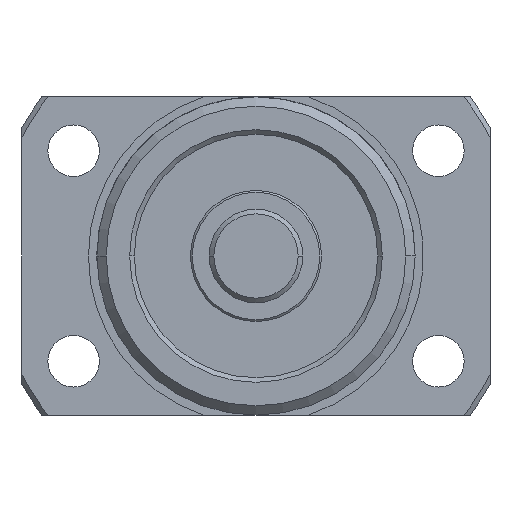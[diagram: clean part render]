
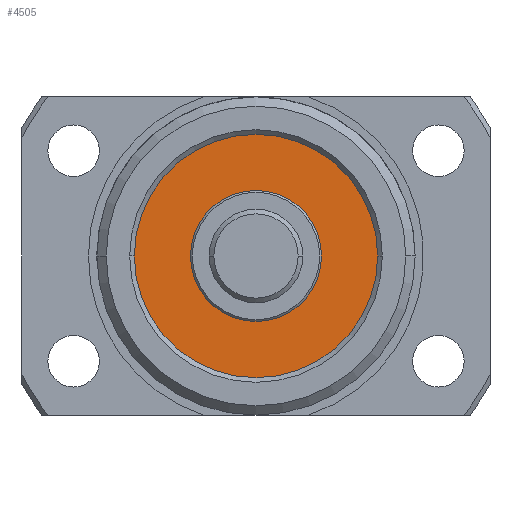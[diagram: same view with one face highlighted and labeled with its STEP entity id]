
A CAD part, left-side view. The second image highlights one B-rep face of the part: STEP entity #4505.
In plain terms, the highlighted planar face has unit normal (-1, 0, 0).
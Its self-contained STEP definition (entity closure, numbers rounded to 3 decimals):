
#79 = CIRCLE ( 'NONE', #2429, 13. ) ;
#118 = DIRECTION ( 'NONE',  ( 0., -1., 0. ) ) ;
#119 = DIRECTION ( 'NONE',  ( -1., 0., 0. ) ) ;
#120 = CARTESIAN_POINT ( 'NONE',  ( -40.5, 0., 0. ) ) ;
#932 = EDGE_CURVE ( 'NONE', #3075, #3266, #2846, .T. ) ;
#1139 = DIRECTION ( 'NONE',  ( 0., -1., 0. ) ) ;
#1140 = PLANE ( 'NONE',  #5209 ) ;
#1141 = CARTESIAN_POINT ( 'NONE',  ( -40.5, 0., 0. ) ) ;
#1142 = DIRECTION ( 'NONE',  ( -1., 0., 0. ) ) ;
#2030 = CARTESIAN_POINT ( 'NONE',  ( -40.5, 0., 7. ) ) ;
#2042 = CARTESIAN_POINT ( 'NONE',  ( -40.5, 0., -7. ) ) ;
#2135 = CARTESIAN_POINT ( 'NONE',  ( -40.5, 13., 0. ) ) ;
#2244 = CIRCLE ( 'NONE', #2489, 7. ) ;
#2321 = CIRCLE ( 'NONE', #2526, 7. ) ;
#2429 = AXIS2_PLACEMENT_3D ( 'NONE', #4992, #4991, #4990 ) ;
#2489 = AXIS2_PLACEMENT_3D ( 'NONE', #4308, #4309, #4313 ) ;
#2526 = AXIS2_PLACEMENT_3D ( 'NONE', #120, #119, #118 ) ;
#2784 = EDGE_LOOP ( 'NONE', ( #3549, #3550 ) ) ;
#2846 = CIRCLE ( 'NONE', #4387, 13. ) ;
#2967 = EDGE_LOOP ( 'NONE', ( #3551, #3552 ) ) ;
#3075 = VERTEX_POINT ( 'NONE', #5818 ) ;
#3266 = VERTEX_POINT ( 'NONE', #2135 ) ;
#3313 = VERTEX_POINT ( 'NONE', #2042 ) ;
#3326 = VERTEX_POINT ( 'NONE', #2030 ) ;
#3549 = ORIENTED_EDGE ( 'NONE', *, *, #4811, .F. ) ;
#3550 = ORIENTED_EDGE ( 'NONE', *, *, #4720, .F. ) ;
#3551 = ORIENTED_EDGE ( 'NONE', *, *, #932, .T. ) ;
#3552 = ORIENTED_EDGE ( 'NONE', *, *, #4596, .T. ) ;
#4308 = CARTESIAN_POINT ( 'NONE',  ( -40.5, 0., 0. ) ) ;
#4309 = DIRECTION ( 'NONE',  ( -1., 0., 0. ) ) ;
#4313 = DIRECTION ( 'NONE',  ( 0., -1., 0. ) ) ;
#4387 = AXIS2_PLACEMENT_3D ( 'NONE', #5672, #5671, #5670 ) ;
#4505 = ADVANCED_FACE ( 'NONE', ( #5051, #5055 ), #1140, .T. ) ;
#4596 = EDGE_CURVE ( 'NONE', #3266, #3075, #79, .T. ) ;
#4720 = EDGE_CURVE ( 'NONE', #3326, #3313, #2244, .T. ) ;
#4811 = EDGE_CURVE ( 'NONE', #3313, #3326, #2321, .T. ) ;
#4990 = DIRECTION ( 'NONE',  ( 0., -1., 0. ) ) ;
#4991 = DIRECTION ( 'NONE',  ( -1., 0., 0. ) ) ;
#4992 = CARTESIAN_POINT ( 'NONE',  ( -40.5, 0., 0. ) ) ;
#5051 = FACE_BOUND ( 'NONE', #2784, .T. ) ;
#5055 = FACE_OUTER_BOUND ( 'NONE', #2967, .T. ) ;
#5209 = AXIS2_PLACEMENT_3D ( 'NONE', #1141, #1142, #1139 ) ;
#5670 = DIRECTION ( 'NONE',  ( 0., -1., 0. ) ) ;
#5671 = DIRECTION ( 'NONE',  ( -1., 0., 0. ) ) ;
#5672 = CARTESIAN_POINT ( 'NONE',  ( -40.5, 0., 0. ) ) ;
#5818 = CARTESIAN_POINT ( 'NONE',  ( -40.5, -13., 0. ) ) ;
